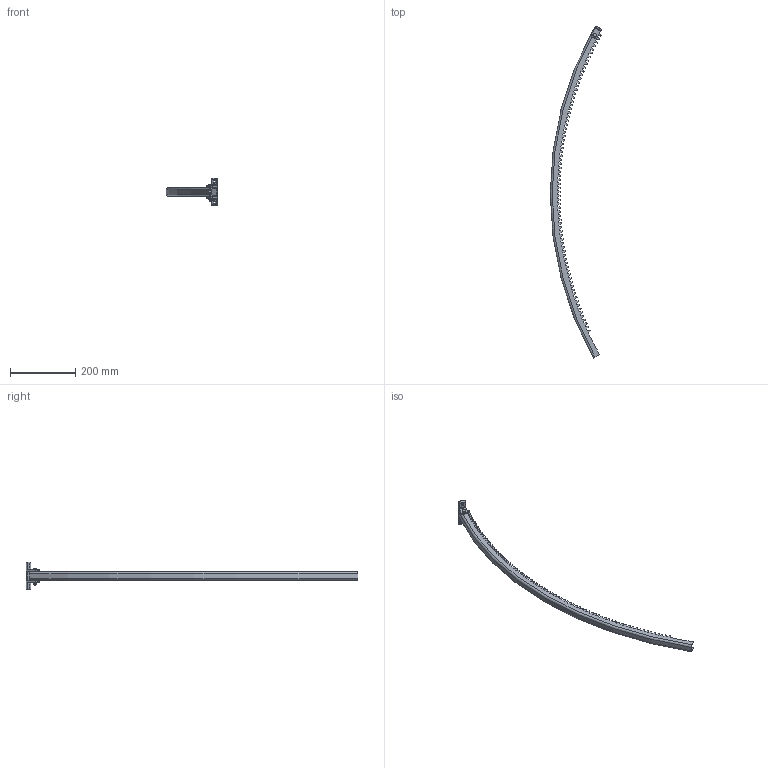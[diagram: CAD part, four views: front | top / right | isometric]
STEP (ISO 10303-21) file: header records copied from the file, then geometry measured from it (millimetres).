
FILE_DESCRIPTION (( 'STEP AP214' ), '1' );
FILE_NAME ('Zahnstange_10171031.STEP', '2018-12-11T14:17:22', ( '' ), ( '' ), 'SwSTEP 2.0', 'SolidWorks 2018', '' );
FILE_SCHEMA (( 'AUTOMOTIVE_DESIGN' ));
Length unit declared in the file: millimetre
Products named in the file (6): Zahnstange_10146123_Standard; Schraube_10148565_ISO 4017 - M6 x 50-N; Montageplatte_10140229_Standard; Zahnstange_10171031; Mutter_10001793_Standard; Montageplatte_10148566_Standard
Assembly tree (5 placements, depth 3):
  Zahnstange_10171031
    Zahnstange_10146123_Standard
    Montageplatte_10148566_Standard
      Montageplatte_10140229_Standard
      Schraube_10148565_ISO 4017 - M6 x 50-N
      Mutter_10001793_Standard
Bounding box: 157.57 x 1016.19 x 85 mm (x, y, z)
Volume: 221942.2 mm3; surface area: 159143.4 mm2
Topology: 4 solids, 4 shells, 897 faces, 2630 edges, 1742 vertices
Faces by surface type: plane 673, cylinder 194, cone 20, torus 10
Entity records: 29888 total; most frequent: CARTESIAN_POINT 5458, ORIENTED_EDGE 5260, DIRECTION 4842, EDGE_CURVE 2630, VECTOR 2158, LINE 2158, VERTEX_POINT 1742, AXIS2_PLACEMENT_3D 1342
